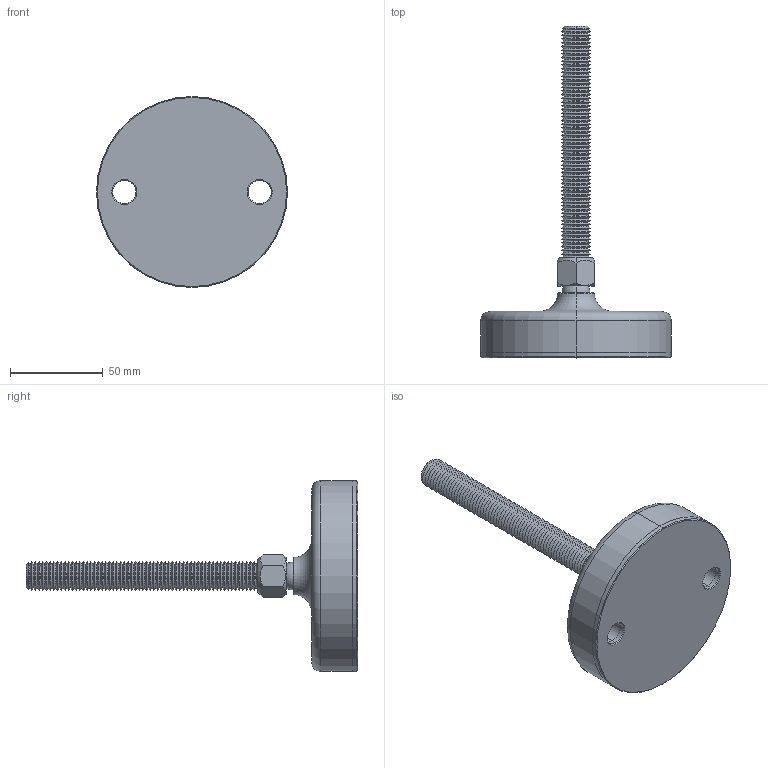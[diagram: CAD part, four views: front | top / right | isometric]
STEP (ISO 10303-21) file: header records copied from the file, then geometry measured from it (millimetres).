
FILE_DESCRIPTION (( 'STEP AP203' ), '1' );
FILE_NAME ('34724.W1700.step', '2019-11-28T22:13:57', ( '' ), ( '' ), 'SwSTEP 2.0', 'SolidWorks 2017', '' );
FILE_SCHEMA (( 'CONFIG_CONTROL_DESIGN' ));
Length unit declared in the file: millimetre
Products named in the file (4): Part1_34724.W1700; 34724.W1700; Part2_34724.W1700; Part3_34724.W1700
Assembly tree (3 placements, depth 2):
  34724.W1700
    Part1_34724.W1700
    Part2_34724.W1700
    Part3_34724.W1700
Bounding box: 103 x 179 x 103 mm (x, y, z)
Volume: 230995.5 mm3; surface area: 55218.8 mm2
Topology: 3 solids, 3 shells, 300 faces, 615 edges, 321 vertices
Faces by surface type: cone 266, plane 14, cylinder 12, sphere 4, torus 4
Entity records: 8166 total; most frequent: DIRECTION 1516, CARTESIAN_POINT 1380, ORIENTED_EDGE 1212, AXIS2_PLACEMENT_3D 616, EDGE_CURVE 606, VERTEX_POINT 316, EDGE_LOOP 312, CIRCLE 310
